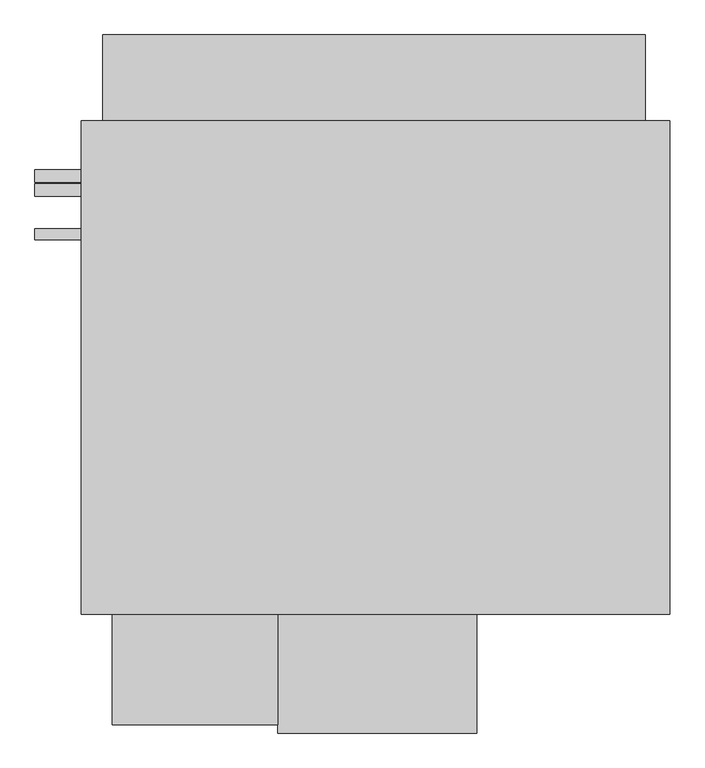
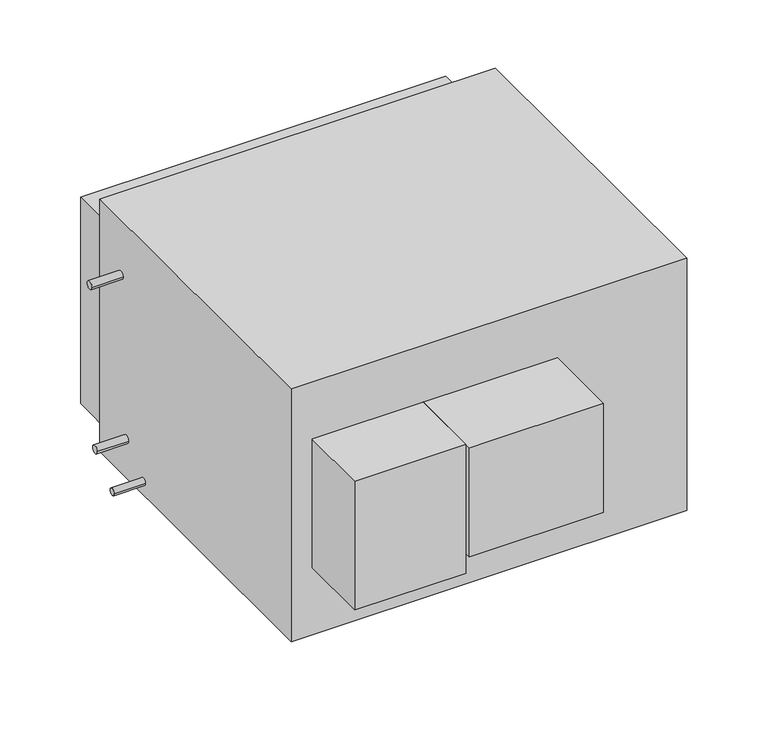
"""IFC4 building model written with IfcOpenShell, lengths in millimetres: proxy geometry, Horizontal_Direct_Drive_Blower_Coil_Unit_-_42DHA_-_CARRIER_-_2-Pipe_Cool-EHeat_LH_2022 : Size 30 - 460v/60Hz/3Ph - 8 Row 30.0kW LH."""

from ifc_helpers import new_model, si_unit, point, frame, frame_2d, origin, place, context, project, spatial, polyline, circle_curve, trimmed, segment, composite_curve, outline, extrude, source, transform, mapped, element, save


def mechanical_equipment_8eea2e23(model_context):
    return source(origin(), model_context, "Body", "SweptSolid", [
        extrude(outline(composite_curve([segment(trimmed(circle_curve(frame_2d((377.825, -177.8)), 12.7), [point((365.125, -177.8))], [point((390.525, -177.8))], False, "CARTESIAN"), True, "CONTINUOUS"), segment(trimmed(circle_curve(frame_2d((377.825, -177.8)), 12.7), [point((390.525, -177.8))], [point((365.125, -177.8))], False, "CARTESIAN"), True, "CONTINUOUS")], self_intersect=False)), frame((-1163.1025559, 0.0, 0.0), z_axis=(1.0, 0.0, 0.0), x_axis=(0.0, 1.0, 0.0)), (0.0, 0.0, 1.0), 96.3025559),
        extrude(outline(composite_curve([segment(trimmed(circle_curve(frame_2d((348.9715397, -695.3058174)), 12.7), [point((336.2715397, -695.3058174))], [point((361.6715397, -695.3058174))], False, "CARTESIAN"), True, "CONTINUOUS"), segment(trimmed(circle_curve(frame_2d((348.9715397, -695.3058174)), 12.7), [point((361.6715397, -695.3058174))], [point((336.2715397, -695.3058174))], False, "CARTESIAN"), True, "CONTINUOUS")], self_intersect=False)), frame((-1163.1025559, 0.0, 0.0), z_axis=(1.0, 0.0, 0.0), x_axis=(0.0, 1.0, 0.0)), (0.0, 0.0, 1.0), 96.3025559),
        extrude(outline(composite_curve([segment(trimmed(circle_curve(frame_2d((257.175, -777.8558174)), 11.1125), [point((246.0625, -777.8558174))], [point((268.2875, -777.8558174))], False, "CARTESIAN"), True, "CONTINUOUS"), segment(trimmed(circle_curve(frame_2d((257.175, -777.8558174)), 11.1125), [point((268.2875, -777.8558174))], [point((246.0625, -777.8558174))], False, "CARTESIAN"), True, "CONTINUOUS")], self_intersect=False)), frame((-1163.1025559, 0.0, 0.0), z_axis=(1.0, 0.0, 0.0), x_axis=(0.0, 1.0, 0.0)), (0.0, 0.0, 1.0), 96.3025559),
        extrude(outline(polyline([(152.4, 492.125), (152.4, -530.225), (-1066.8, -530.225), (-1066.8, 492.125), (152.4, 492.125)])), frame((0.0, 0.0, -822.3058174), z_axis=(0.0, 0.0, 1.0), x_axis=(1.0, 0.0, 0.0)), (0.0, 0.0, 1.0), 822.3058174),
        extrude(outline(polyline([(-660.4, -758.825), (-1003.3, -758.825), (-1003.3, -530.225), (-660.4, -530.225), (-660.4, -758.825)])), frame((0.0, 0.0, -603.2308174), z_axis=(0.0, 0.0, 1.0), x_axis=(1.0, 0.0, 0.0)), (0.0, 0.0, 1.0), 419.1),
        extrude(outline(polyline([(-1022.35, 669.925), (101.6, 669.925), (101.6, 492.125), (-1022.35, 492.125), (-1022.35, 669.925)])), frame((0.0, 0.0, -790.5558174), z_axis=(0.0, 0.0, 1.0), x_axis=(1.0, 0.0, 0.0)), (0.0, 0.0, 1.0), 673.1),
        extrude(outline(polyline([(-247.65, -776.2875), (-660.4, -776.2875), (-660.4, -530.225), (-247.65, -530.225), (-247.65, -776.2875)])), frame((0.0, 0.0, -539.7308174), z_axis=(0.0, 0.0, 1.0), x_axis=(1.0, 0.0, 0.0)), (0.0, 0.0, 1.0), 355.6),
    ])


if __name__ == "__main__":
    model = new_model("IFC4")
    model_context = context("Model", 3, world=origin())
    ifc_project = project(units=[si_unit("LENGTHUNIT", "METRE", prefix="MILLI")], contexts=[model_context])
    site = spatial("IfcSite", under=ifc_project)
    building = spatial("IfcBuilding", under=site)
    placement = place(None, origin())
    mechanical_equipment_shape = mechanical_equipment_8eea2e23(model_context)
    element("IfcBuildingElementProxy", 1, Name="Horizontal_Direct_Drive_Blower_Coil_Unit_-_42DHA_-_CARRIER_-_2-Pipe_Cool-EHeat_LH_2022 : Size 30 - 460v/60Hz/3Ph - 8 Row 30.0kW LH", ObjectType="Horizontal_Direct_Drive_Blower_Coil_Unit_-_42DHA_-_CARRIER_-_2-Pipe_Cool-EHeat_LH_2022 : Size 30 - 460v/60Hz/3Ph - 8 Row 30.0kW LH", at=placement, inside=building, context=model_context, shape_type="MappedRepresentation", body=[
        mapped(mechanical_equipment_shape, transform((0.0, 0.0, 0.0), x_axis=(1.0, 0.0, 0.0), y_axis=(0.0, 1.0, 0.0), z_axis=(0.0, 0.0, 1.0))),
    ])
    save(model, "model.ifc")
